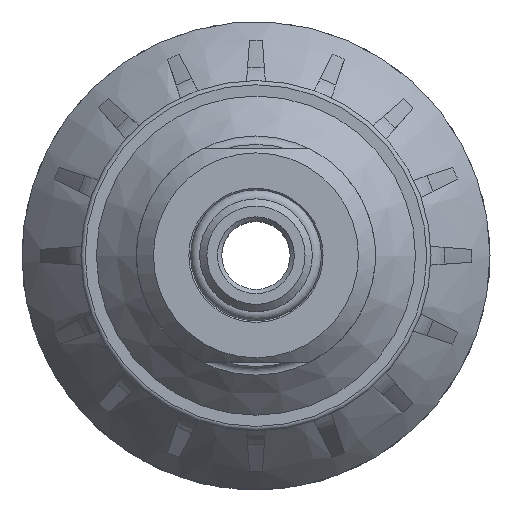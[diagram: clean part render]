
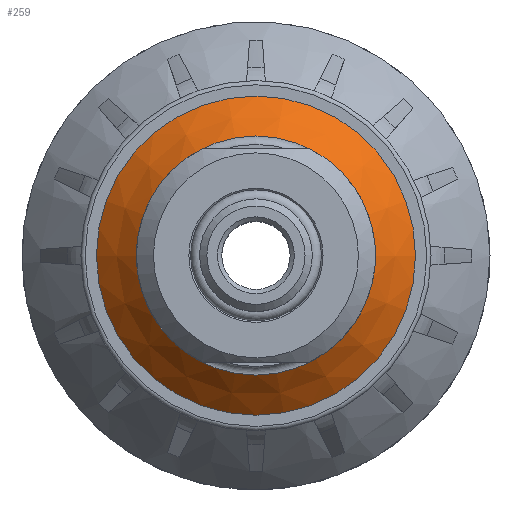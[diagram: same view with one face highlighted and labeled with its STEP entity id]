
A CAD part, top view. The second image highlights one B-rep face of the part: STEP entity #259.
In plain terms, the highlighted conical face has half-angle 45.485 degrees and reference radius 18.678 mm.
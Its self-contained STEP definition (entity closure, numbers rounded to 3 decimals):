
#259 = ADVANCED_FACE( '', ( #578, #579 ), #580, .T. );
#578 = FACE_BOUND( '', #1005, .T. );
#579 = FACE_OUTER_BOUND( '', #1006, .T. );
#580 = CONICAL_SURFACE( '', #1007, 18.679, 0.794 );
#1005 = EDGE_LOOP( '', ( #2098 ) );
#1006 = EDGE_LOOP( '', ( #2099 ) );
#1007 = AXIS2_PLACEMENT_3D( '', #2100, #2101, #2102 );
#2098 = ORIENTED_EDGE( '', *, *, #4108, .T. );
#2099 = ORIENTED_EDGE( '', *, *, #4109, .F. );
#2100 = CARTESIAN_POINT( '', ( 0., 0., 5.928 ) );
#2101 = DIRECTION( '', ( 0., 0., -1. ) );
#2102 = DIRECTION( '', ( -1., 0., 0. ) );
#4108 = EDGE_CURVE( '', #7798, #7798, #7799, .T. );
#4109 = EDGE_CURVE( '', #7800, #7800, #7801, .T. );
#7798 = VERTEX_POINT( '', #13008 );
#7799 = CIRCLE( '', #13009, 14. );
#7800 = VERTEX_POINT( '', #13010 );
#7801 = CIRCLE( '', #13011, 18.679 );
#13008 = CARTESIAN_POINT( '', ( -14., 0., 10.528 ) );
#13009 = AXIS2_PLACEMENT_3D( '', #15500, #15501, #15502 );
#13010 = CARTESIAN_POINT( '', ( -18.679, 0., 5.928 ) );
#13011 = AXIS2_PLACEMENT_3D( '', #15503, #15504, #15505 );
#15500 = CARTESIAN_POINT( '', ( 0., 0., 10.528 ) );
#15501 = DIRECTION( '', ( 0., 0., -1. ) );
#15502 = DIRECTION( '', ( -1., 0., 0. ) );
#15503 = CARTESIAN_POINT( '', ( 0., 0., 5.928 ) );
#15504 = DIRECTION( '', ( 0., 0., -1. ) );
#15505 = DIRECTION( '', ( -1., 0., 0. ) );
